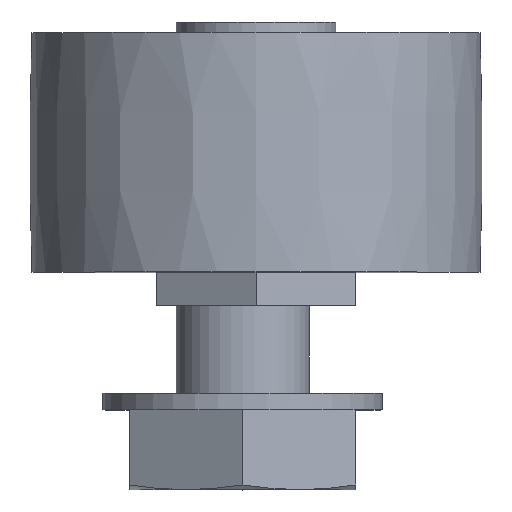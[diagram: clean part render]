
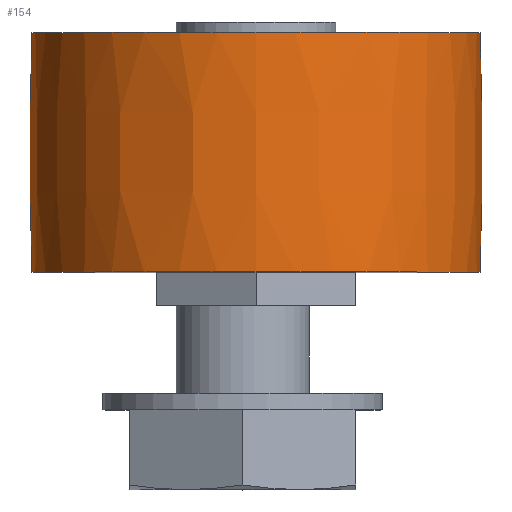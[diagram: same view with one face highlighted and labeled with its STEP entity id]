
A CAD part, top view. The second image highlights one B-rep face of the part: STEP entity #154.
In plain terms, the highlighted free-form (B-spline) face has degree [3, 3] with [4, 7] control points.
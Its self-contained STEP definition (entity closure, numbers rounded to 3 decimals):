
#154 = ADVANCED_FACE( '', ( #233, #234 ), #235, .T. );
#233 = FACE_OUTER_BOUND( '', #340, .T. );
#234 = FACE_OUTER_BOUND( '', #341, .T. );
#235 = ( BOUNDED_SURFACE(  )B_SPLINE_SURFACE( 3, 3, ( ( #344, #345, #346, #347, #348, #349, #350 ), ( #351, #352, #353, #354, #355, #356, #357 ), ( #358, #359, #360, #361, #362, #363, #364 ), ( #365, #366, #367, #368, #369, #370, #371 ) ), .UNSPECIFIED., .F., .T., .F. )B_SPLINE_SURFACE_WITH_KNOTS( ( 4, 4 ), ( 4, 3, 4 ), ( 0., 6.283 ), ( -0.036, 0., 0.036 ), .UNSPECIFIED. )GEOMETRIC_REPRESENTATION_ITEM(  )RATIONAL_B_SPLINE_SURFACE( ( ( 1., 0.333, 0.333, 1., 0.333, 0.333, 1. ), ( 1., 0.333, 0.333, 1., 0.333, 0.333, 1. ), ( 1., 0.333, 0.333, 1., 0.333, 0.333, 1. ), ( 1., 0.333, 0.333, 1., 0.333, 0.333, 1. ) ) )REPRESENTATION_ITEM( '' )SURFACE(  ) );
#340 = EDGE_LOOP( '', ( #587 ) );
#341 = EDGE_LOOP( '', ( #588 ) );
#344 = CARTESIAN_POINT( '', ( 0., 2.5, -16.838 ) );
#345 = CARTESIAN_POINT( '', ( 33.676, 2.5, -16.838 ) );
#346 = CARTESIAN_POINT( '', ( 33.676, 2.5, 16.838 ) );
#347 = CARTESIAN_POINT( '', ( 0., 2.5, 16.838 ) );
#348 = CARTESIAN_POINT( '', ( -33.676, 2.5, 16.838 ) );
#349 = CARTESIAN_POINT( '', ( -33.676, 2.5, -16.838 ) );
#350 = CARTESIAN_POINT( '', ( 0., 2.5, -16.838 ) );
#351 = CARTESIAN_POINT( '', ( 0., 8.499, -17.054 ) );
#352 = CARTESIAN_POINT( '', ( 34.108, 8.499, -17.054 ) );
#353 = CARTESIAN_POINT( '', ( 34.108, 8.499, 17.054 ) );
#354 = CARTESIAN_POINT( '', ( 0., 8.499, 17.054 ) );
#355 = CARTESIAN_POINT( '', ( -34.108, 8.499, 17.054 ) );
#356 = CARTESIAN_POINT( '', ( -34.108, 8.499, -17.054 ) );
#357 = CARTESIAN_POINT( '', ( 0., 8.499, -17.054 ) );
#358 = CARTESIAN_POINT( '', ( 0., 14.501, -17.054 ) );
#359 = CARTESIAN_POINT( '', ( 34.108, 14.501, -17.054 ) );
#360 = CARTESIAN_POINT( '', ( 34.108, 14.501, 17.054 ) );
#361 = CARTESIAN_POINT( '', ( 0., 14.501, 17.054 ) );
#362 = CARTESIAN_POINT( '', ( -34.108, 14.501, 17.054 ) );
#363 = CARTESIAN_POINT( '', ( -34.108, 14.501, -17.054 ) );
#364 = CARTESIAN_POINT( '', ( 0., 14.501, -17.054 ) );
#365 = CARTESIAN_POINT( '', ( 0., 20.5, -16.838 ) );
#366 = CARTESIAN_POINT( '', ( 33.676, 20.5, -16.838 ) );
#367 = CARTESIAN_POINT( '', ( 33.676, 20.5, 16.838 ) );
#368 = CARTESIAN_POINT( '', ( 0., 20.5, 16.838 ) );
#369 = CARTESIAN_POINT( '', ( -33.676, 20.5, 16.838 ) );
#370 = CARTESIAN_POINT( '', ( -33.676, 20.5, -16.838 ) );
#371 = CARTESIAN_POINT( '', ( 0., 20.5, -16.838 ) );
#587 = ORIENTED_EDGE( '', *, *, #818, .T. );
#588 = ORIENTED_EDGE( '', *, *, #817, .F. );
#817 = EDGE_CURVE( '', #961, #961, #962, .T. );
#818 = EDGE_CURVE( '', #963, #963, #964, .T. );
#961 = VERTEX_POINT( '', #1197 );
#962 = CIRCLE( '', #1198, 16.838 );
#963 = VERTEX_POINT( '', #1199 );
#964 = CIRCLE( '', #1200, 16.838 );
#1197 = CARTESIAN_POINT( '', ( 0., 2.5, -16.838 ) );
#1198 = AXIS2_PLACEMENT_3D( '', #1353, #1354, #1355 );
#1199 = CARTESIAN_POINT( '', ( 0., 20.5, -16.838 ) );
#1200 = AXIS2_PLACEMENT_3D( '', #1356, #1357, #1358 );
#1353 = CARTESIAN_POINT( '', ( 0., 2.5, 0. ) );
#1354 = DIRECTION( '', ( 0., -1., 0. ) );
#1355 = DIRECTION( '', ( 0., 0., -1. ) );
#1356 = CARTESIAN_POINT( '', ( 0., 20.5, 0. ) );
#1357 = DIRECTION( '', ( 0., -1., 0. ) );
#1358 = DIRECTION( '', ( 0., 0., -1. ) );
